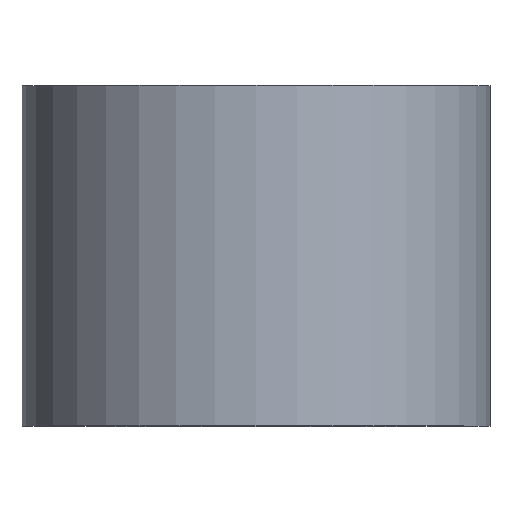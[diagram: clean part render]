
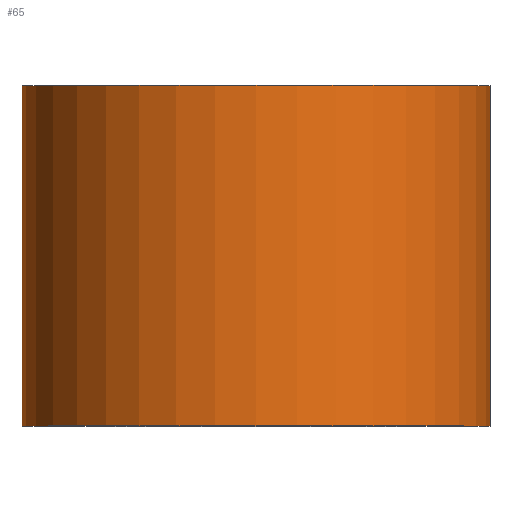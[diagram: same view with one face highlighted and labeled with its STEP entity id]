
A CAD part, top view. The second image highlights one B-rep face of the part: STEP entity #65.
In plain terms, the highlighted cylindrical face has radius 11 mm (diameter 22 mm), a partial arc.
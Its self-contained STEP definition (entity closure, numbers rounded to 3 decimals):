
#10 = EDGE_CURVE ( 'NONE', #116, #293, #247, .T. ) ;
#12 = FACE_OUTER_BOUND ( 'NONE', #229, .T. ) ;
#16 = AXIS2_PLACEMENT_3D ( 'NONE', #104, #69, #175 ) ;
#35 = AXIS2_PLACEMENT_3D ( 'NONE', #71, #47, #241 ) ;
#39 = CIRCLE ( 'NONE', #35, 11. ) ;
#44 = DIRECTION ( 'NONE',  ( -1., 0., 0. ) ) ;
#47 = DIRECTION ( 'NONE',  ( 0., 1., 0. ) ) ;
#65 = ADVANCED_FACE ( 'NONE', ( #12 ), #269, .T. ) ;
#67 = CIRCLE ( 'NONE', #16, 11. ) ;
#68 = DIRECTION ( 'NONE',  ( 0., 1., 0. ) ) ;
#69 = DIRECTION ( 'NONE',  ( 0., 1., 0. ) ) ;
#71 = CARTESIAN_POINT ( 'NONE',  ( 0., 16., 0. ) ) ;
#88 = CARTESIAN_POINT ( 'NONE',  ( -11., 0., 0. ) ) ;
#92 = LINE ( 'NONE', #88, #193 ) ;
#104 = CARTESIAN_POINT ( 'NONE',  ( 0., 0., 0. ) ) ;
#107 = VERTEX_POINT ( 'NONE', #126 ) ;
#116 = VERTEX_POINT ( 'NONE', #125 ) ;
#117 = EDGE_CURVE ( 'NONE', #107, #116, #67, .T. ) ;
#118 = VERTEX_POINT ( 'NONE', #221 ) ;
#125 = CARTESIAN_POINT ( 'NONE',  ( 11., 0., 0. ) ) ;
#126 = CARTESIAN_POINT ( 'NONE',  ( -11., 0., 0. ) ) ;
#128 = CARTESIAN_POINT ( 'NONE',  ( 0., 0., 0. ) ) ;
#141 = ORIENTED_EDGE ( 'NONE', *, *, #10, .T. ) ;
#142 = EDGE_CURVE ( 'NONE', #118, #293, #39, .T. ) ;
#146 = ORIENTED_EDGE ( 'NONE', *, *, #117, .T. ) ;
#149 = ORIENTED_EDGE ( 'NONE', *, *, #142, .F. ) ;
#175 = DIRECTION ( 'NONE',  ( -1., 0., 0. ) ) ;
#180 = DIRECTION ( 'NONE',  ( 0., 1., 0. ) ) ;
#193 = VECTOR ( 'NONE', #180, 1000. ) ;
#221 = CARTESIAN_POINT ( 'NONE',  ( -11., 16., 0. ) ) ;
#227 = ORIENTED_EDGE ( 'NONE', *, *, #251, .F. ) ;
#229 = EDGE_LOOP ( 'NONE', ( #146, #141, #149, #227 ) ) ;
#236 = CARTESIAN_POINT ( 'NONE',  ( 11., 16., 0. ) ) ;
#241 = DIRECTION ( 'NONE',  ( -1., 0., 0. ) ) ;
#247 = LINE ( 'NONE', #275, #295 ) ;
#251 = EDGE_CURVE ( 'NONE', #107, #118, #92, .T. ) ;
#269 = CYLINDRICAL_SURFACE ( 'NONE', #280, 11. ) ;
#271 = DIRECTION ( 'NONE',  ( 0., 1., 0. ) ) ;
#275 = CARTESIAN_POINT ( 'NONE',  ( 11., 0., 0. ) ) ;
#280 = AXIS2_PLACEMENT_3D ( 'NONE', #128, #68, #44 ) ;
#293 = VERTEX_POINT ( 'NONE', #236 ) ;
#295 = VECTOR ( 'NONE', #271, 1000. ) ;
